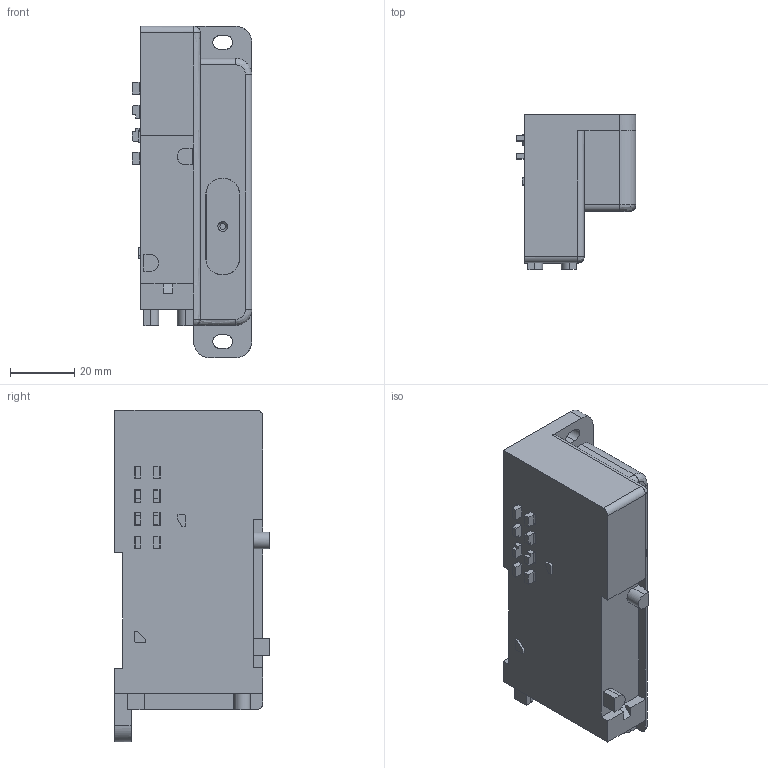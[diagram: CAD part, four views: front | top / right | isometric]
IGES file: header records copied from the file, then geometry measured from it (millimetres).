
Start section: ------------------------------------------------------------------------
Global section: file name: D:\ICADMX\tmp\trans3d_spg\CVICAD02.9116.F10ZX-RN_7857.igs; native system: spGate; preprocessor: ver12.6.6; author: Unknown; organization: Unknown; date: 200901.142047; units: millimetre
Bounding box: 37.1 x 48.1 x 103 mm (x, y, z)
Volume: 110492.4 mm3; surface area: 19702.4 mm2
Topology: 2 solids, 2 shells, 241 faces, 610 edges, 398 vertices
Faces by surface type: bspline 241
